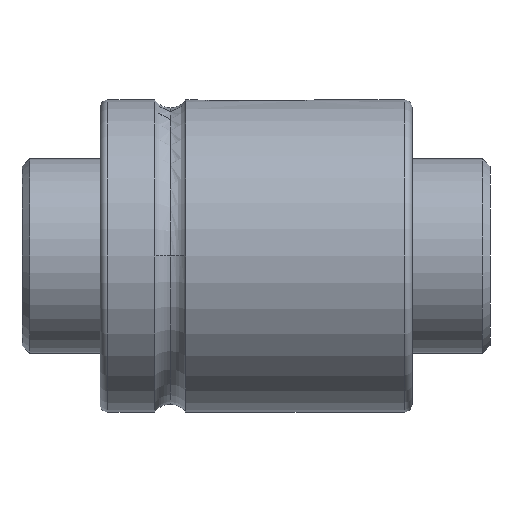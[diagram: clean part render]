
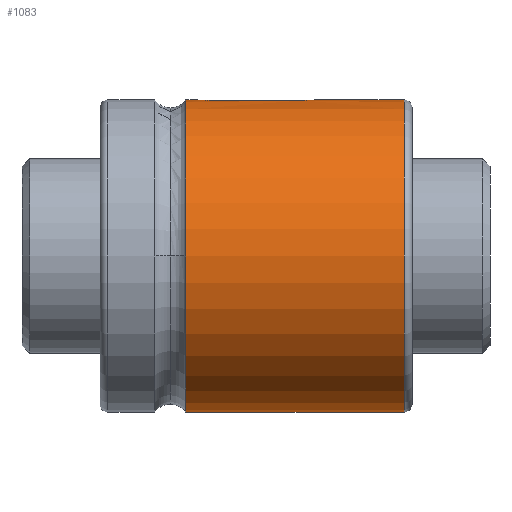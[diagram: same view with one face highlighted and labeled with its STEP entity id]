
A CAD part, front view. The second image highlights one B-rep face of the part: STEP entity #1083.
In plain terms, the highlighted cylindrical face has radius 20 mm (diameter 40 mm), a partial arc.
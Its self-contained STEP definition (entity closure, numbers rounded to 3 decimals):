
#16 = CARTESIAN_POINT ( 'NONE',  ( 12.5, 0., 20. ) ) ;
#104 = CARTESIAN_POINT ( 'NONE',  ( 27.193, -0.914, 19.979 ) ) ;
#145 = ORIENTED_EDGE ( 'NONE', *, *, #3441, .T. ) ;
#180 = EDGE_CURVE ( 'NONE', #2008, #3930, #2435, .T. ) ;
#200 = CARTESIAN_POINT ( 'NONE',  ( 11., 0., -20. ) ) ;
#230 = DIRECTION ( 'NONE',  ( 1., 0., 0. ) ) ;
#239 = CARTESIAN_POINT ( 'NONE',  ( 12.69, -0.756, 19.987 ) ) ;
#266 = CYLINDRICAL_SURFACE ( 'NONE', #2050, 20. ) ;
#299 = DIRECTION ( 'NONE',  ( -1., 0., 0. ) ) ;
#306 = ORIENTED_EDGE ( 'NONE', *, *, #180, .T. ) ;
#423 = LINE ( 'NONE', #4166, #3144 ) ;
#488 = CARTESIAN_POINT ( 'NONE',  ( 11., -20., 0. ) ) ;
#489 = CARTESIAN_POINT ( 'NONE',  ( 27.5, -0.099, 20. ) ) ;
#560 = CARTESIAN_POINT ( 'NONE',  ( 13.612, -1.452, 19.947 ) ) ;
#577 = CARTESIAN_POINT ( 'NONE',  ( 13.249, -1.302, 19.958 ) ) ;
#647 = VERTEX_POINT ( 'NONE', #1513 ) ;
#664 = CARTESIAN_POINT ( 'NONE',  ( 26., -1.5, 19.944 ) ) ;
#740 = DIRECTION ( 'NONE',  ( 0., 0., 1. ) ) ;
#778 = CARTESIAN_POINT ( 'NONE',  ( 27.13, -0.991, 19.976 ) ) ;
#799 = CARTESIAN_POINT ( 'NONE',  ( 40., 0., -20. ) ) ;
#824 = DIRECTION ( 'NONE',  ( -1., 0., 0. ) ) ;
#931 = CARTESIAN_POINT ( 'NONE',  ( 13.901, -1.5, 19.944 ) ) ;
#946 = CARTESIAN_POINT ( 'NONE',  ( 13.517, -1.423, 19.949 ) ) ;
#1044 = ORIENTED_EDGE ( 'NONE', *, *, #1234, .F. ) ;
#1054 = CARTESIAN_POINT ( 'NONE',  ( 39., 0., 20. ) ) ;
#1080 = B_SPLINE_CURVE_WITH_KNOTS ( 'NONE', 3,
 ( #3711, #489, #3393, #1419, #1762, #2100, #2749, #104, #778, #3499, #4139, #1204, #3483, #3123 ),
 .UNSPECIFIED., .F., .F.,
 ( 4, 2, 2, 2, 2, 2, 4 ),
 ( 0.002, 0.003, 0.003, 0.003, 0.004, 0.004, 0.005 ),
 .UNSPECIFIED. ) ;
#1083 = ADVANCED_FACE ( 'NONE', ( #2583 ), #266, .T. ) ;
#1112 = CARTESIAN_POINT ( 'NONE',  ( 40., 0., 0. ) ) ;
#1145 = AXIS2_PLACEMENT_3D ( 'NONE', #2410, #824, #3122 ) ;
#1204 = CARTESIAN_POINT ( 'NONE',  ( 26.395, -1.46, 19.947 ) ) ;
#1234 = EDGE_CURVE ( 'NONE', #4248, #3930, #4181, .T. ) ;
#1333 = CARTESIAN_POINT ( 'NONE',  ( 40., 0., 20. ) ) ;
#1349 = DIRECTION ( 'NONE',  ( -1., 0., 0. ) ) ;
#1367 = CARTESIAN_POINT ( 'NONE',  ( 39., 0., -20. ) ) ;
#1419 = CARTESIAN_POINT ( 'NONE',  ( 27.452, -0.388, 19.996 ) ) ;
#1513 = CARTESIAN_POINT ( 'NONE',  ( 14., -1.5, 19.944 ) ) ;
#1523 = EDGE_CURVE ( 'NONE', #647, #2348, #3020, .T. ) ;
#1572 = AXIS2_PLACEMENT_3D ( 'NONE', #4114, #3413, #3087 ) ;
#1613 = VERTEX_POINT ( 'NONE', #664 ) ;
#1679 = ORIENTED_EDGE ( 'NONE', *, *, #3648, .T. ) ;
#1698 = ORIENTED_EDGE ( 'NONE', *, *, #1915, .T. ) ;
#1762 = CARTESIAN_POINT ( 'NONE',  ( 27.423, -0.483, 19.994 ) ) ;
#1915 = EDGE_CURVE ( 'NONE', #4248, #3512, #2283, .T. ) ;
#1930 = CARTESIAN_POINT ( 'NONE',  ( 12.5, -0.198, 20. ) ) ;
#1951 = ORIENTED_EDGE ( 'NONE', *, *, #1523, .T. ) ;
#1961 = CARTESIAN_POINT ( 'NONE',  ( 14., -1.5, 19.944 ) ) ;
#1962 = CARTESIAN_POINT ( 'NONE',  ( 40., -1.5, 19.944 ) ) ;
#2003 = ORIENTED_EDGE ( 'NONE', *, *, #3190, .T. ) ;
#2008 = VERTEX_POINT ( 'NONE', #488 ) ;
#2050 = AXIS2_PLACEMENT_3D ( 'NONE', #1112, #2700, #740 ) ;
#2061 = VERTEX_POINT ( 'NONE', #2194 ) ;
#2100 = CARTESIAN_POINT ( 'NONE',  ( 27.348, -0.665, 19.989 ) ) ;
#2149 = ORIENTED_EDGE ( 'NONE', *, *, #3736, .T. ) ;
#2194 = CARTESIAN_POINT ( 'NONE',  ( 11., 0., 20. ) ) ;
#2283 = CIRCLE ( 'NONE', #1145, 20. ) ;
#2348 = VERTEX_POINT ( 'NONE', #16 ) ;
#2410 = CARTESIAN_POINT ( 'NONE',  ( 39., 0., 0. ) ) ;
#2435 = CIRCLE ( 'NONE', #3340, 20. ) ;
#2438 = EDGE_LOOP ( 'NONE', ( #1044, #1698, #2003, #1679, #145, #1951, #2149, #4144, #306 ) ) ;
#2501 = VERTEX_POINT ( 'NONE', #2799 ) ;
#2523 = DIRECTION ( 'NONE',  ( -1., 0., 0. ) ) ;
#2540 = LINE ( 'NONE', #1333, #3313 ) ;
#2544 = CARTESIAN_POINT ( 'NONE',  ( 12.5, 0., 20. ) ) ;
#2583 = FACE_OUTER_BOUND ( 'NONE', #2438, .T. ) ;
#2586 = CARTESIAN_POINT ( 'NONE',  ( 13.009, -1.13, 19.968 ) ) ;
#2700 = DIRECTION ( 'NONE',  ( -1., 0., 0. ) ) ;
#2744 = EDGE_CURVE ( 'NONE', #2061, #2008, #2782, .T. ) ;
#2749 = CARTESIAN_POINT ( 'NONE',  ( 27.302, -0.751, 19.986 ) ) ;
#2782 = CIRCLE ( 'NONE', #1572, 20. ) ;
#2799 = CARTESIAN_POINT ( 'NONE',  ( 27.5, 0., 20. ) ) ;
#2910 = CARTESIAN_POINT ( 'NONE',  ( 13.086, -1.193, 19.964 ) ) ;
#3020 = B_SPLINE_CURVE_WITH_KNOTS ( 'NONE', 3,
 ( #1961, #931, #3520, #560, #946, #3843, #577, #2910, #2586, #4187, #239, #4234, #1930, #2544 ),
 .UNSPECIFIED., .F., .F.,
 ( 4, 2, 2, 2, 2, 2, 4 ),
 ( -0.002, -0.002, -0.002, -0.001, -0.001, -0.001, 0. ),
 .UNSPECIFIED. ) ;
#3087 = DIRECTION ( 'NONE',  ( 0., 0., 1. ) ) ;
#3122 = DIRECTION ( 'NONE',  ( 0., 0., 1. ) ) ;
#3123 = CARTESIAN_POINT ( 'NONE',  ( 26., -1.5, 19.944 ) ) ;
#3144 = VECTOR ( 'NONE', #2523, 1000. ) ;
#3190 = EDGE_CURVE ( 'NONE', #3512, #2501, #2540, .T. ) ;
#3305 = VECTOR ( 'NONE', #3764, 1000. ) ;
#3313 = VECTOR ( 'NONE', #299, 1000. ) ;
#3340 = AXIS2_PLACEMENT_3D ( 'NONE', #4208, #230, #3550 ) ;
#3393 = CARTESIAN_POINT ( 'NONE',  ( 27.49, -0.196, 19.999 ) ) ;
#3413 = DIRECTION ( 'NONE',  ( 1., 0., 0. ) ) ;
#3441 = EDGE_CURVE ( 'NONE', #1613, #647, #3507, .T. ) ;
#3483 = CARTESIAN_POINT ( 'NONE',  ( 26.198, -1.5, 19.944 ) ) ;
#3499 = CARTESIAN_POINT ( 'NONE',  ( 26.923, -1.199, 19.965 ) ) ;
#3507 = LINE ( 'NONE', #1962, #4079 ) ;
#3512 = VERTEX_POINT ( 'NONE', #1054 ) ;
#3520 = CARTESIAN_POINT ( 'NONE',  ( 13.804, -1.49, 19.944 ) ) ;
#3550 = DIRECTION ( 'NONE',  ( 0., 0., 1. ) ) ;
#3648 = EDGE_CURVE ( 'NONE', #2501, #1613, #1080, .T. ) ;
#3711 = CARTESIAN_POINT ( 'NONE',  ( 27.5, 0., 20. ) ) ;
#3736 = EDGE_CURVE ( 'NONE', #2348, #2061, #423, .T. ) ;
#3764 = DIRECTION ( 'NONE',  ( -1., 0., 0. ) ) ;
#3843 = CARTESIAN_POINT ( 'NONE',  ( 13.335, -1.348, 19.955 ) ) ;
#3930 = VERTEX_POINT ( 'NONE', #200 ) ;
#4079 = VECTOR ( 'NONE', #1349, 1000. ) ;
#4114 = CARTESIAN_POINT ( 'NONE',  ( 11., 0., 0. ) ) ;
#4139 = CARTESIAN_POINT ( 'NONE',  ( 26.756, -1.31, 19.957 ) ) ;
#4144 = ORIENTED_EDGE ( 'NONE', *, *, #2744, .T. ) ;
#4166 = CARTESIAN_POINT ( 'NONE',  ( 40., 0., 20. ) ) ;
#4181 = LINE ( 'NONE', #799, #3305 ) ;
#4187 = CARTESIAN_POINT ( 'NONE',  ( 12.801, -0.923, 19.979 ) ) ;
#4208 = CARTESIAN_POINT ( 'NONE',  ( 11., 0., 0. ) ) ;
#4234 = CARTESIAN_POINT ( 'NONE',  ( 12.54, -0.395, 19.997 ) ) ;
#4248 = VERTEX_POINT ( 'NONE', #1367 ) ;
